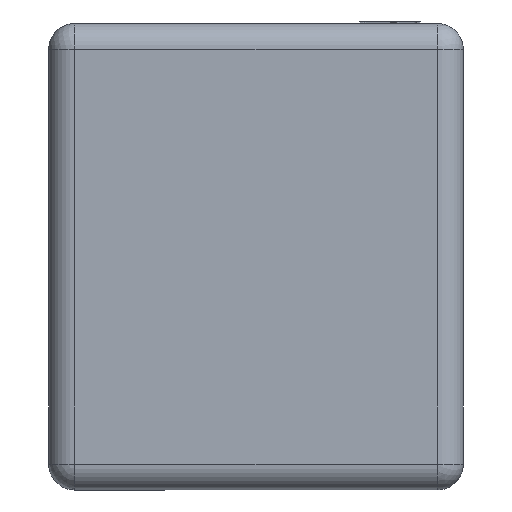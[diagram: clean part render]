
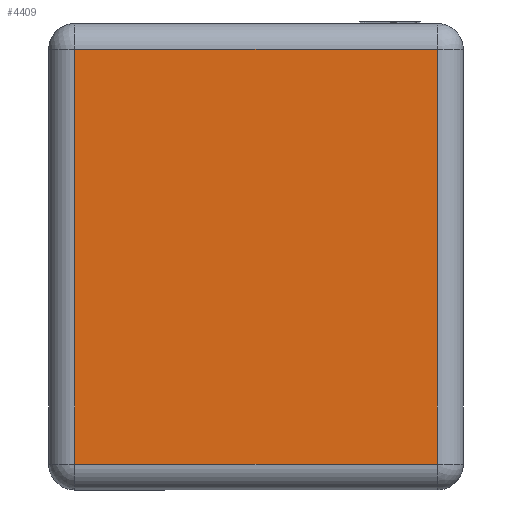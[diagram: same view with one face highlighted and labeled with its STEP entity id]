
A CAD part, left-side view. The second image highlights one B-rep face of the part: STEP entity #4409.
In plain terms, the highlighted planar face has unit normal (-1, 0, 0).
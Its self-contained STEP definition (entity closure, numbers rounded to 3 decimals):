
#390=PLANE('',#4771);
#483=LINE('',#6160,#879);
#485=LINE('',#6170,#881);
#490=LINE('',#6187,#886);
#492=LINE('',#6190,#888);
#879=VECTOR('',#5105,10.);
#881=VECTOR('',#5117,10.);
#886=VECTOR('',#5136,10.);
#888=VECTOR('',#5140,10.);
#1317=FACE_OUTER_BOUND('',#1563,.T.);
#1563=EDGE_LOOP('',(#3059,#3060,#3061,#3062));
#1866=VERTEX_POINT('',#6135);
#1871=VERTEX_POINT('',#6148);
#1875=VERTEX_POINT('',#6163);
#1882=VERTEX_POINT('',#6182);
#2329=EDGE_CURVE('',#1866,#1871,#483,.T.);
#2334=EDGE_CURVE('',#1875,#1866,#485,.T.);
#2343=EDGE_CURVE('',#1871,#1882,#490,.T.);
#2345=EDGE_CURVE('',#1882,#1875,#492,.T.);
#3059=ORIENTED_EDGE('',*,*,#2329,.F.);
#3060=ORIENTED_EDGE('',*,*,#2334,.F.);
#3061=ORIENTED_EDGE('',*,*,#2345,.F.);
#3062=ORIENTED_EDGE('',*,*,#2343,.F.);
#4409=ADVANCED_FACE('',(#1317),#390,.T.);
#4771=AXIS2_PLACEMENT_3D('',#6201,#5153,#5154);
#5105=DIRECTION('',(0.,1.,0.));
#5117=DIRECTION('',(0.,0.,-1.));
#5136=DIRECTION('',(0.,0.,1.));
#5140=DIRECTION('',(0.,-1.,0.));
#5153=DIRECTION('center_axis',(-1.,0.,0.));
#5154=DIRECTION('ref_axis',(0.,-1.,0.));
#6135=CARTESIAN_POINT('',(-0.8,-0.35,0.05));
#6148=CARTESIAN_POINT('',(-0.8,0.35,0.05));
#6160=CARTESIAN_POINT('',(-0.8,0.2,0.05));
#6163=CARTESIAN_POINT('',(-0.8,-0.35,0.85));
#6170=CARTESIAN_POINT('',(-0.8,-0.35,0.));
#6182=CARTESIAN_POINT('',(-0.8,0.35,0.85));
#6187=CARTESIAN_POINT('',(-0.8,0.35,0.));
#6190=CARTESIAN_POINT('',(-0.8,0.2,0.85));
#6201=CARTESIAN_POINT('Origin',(-0.8,0.4,0.));
